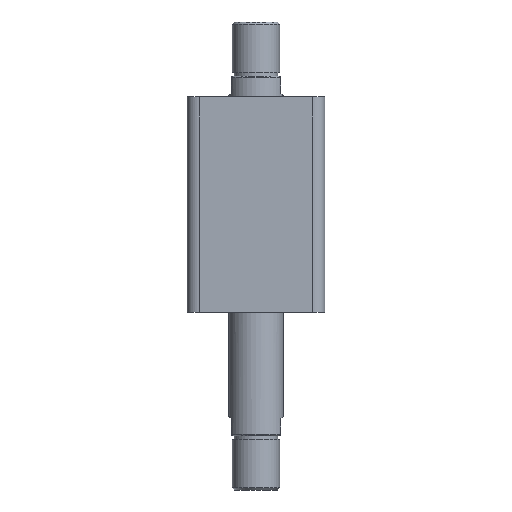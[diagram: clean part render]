
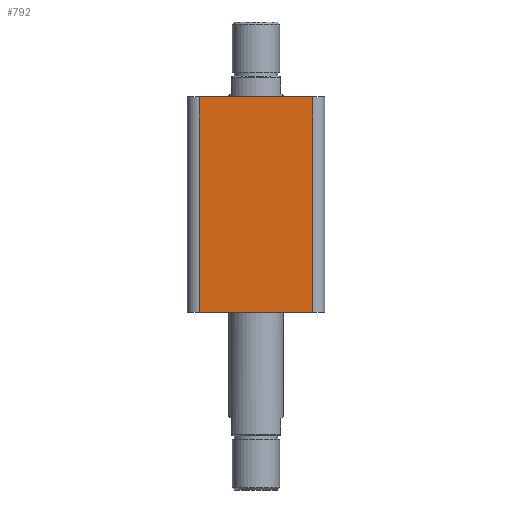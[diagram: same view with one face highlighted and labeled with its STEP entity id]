
A CAD part, front view. The second image highlights one B-rep face of the part: STEP entity #792.
In plain terms, the highlighted planar face has unit normal (0, -1, 0).
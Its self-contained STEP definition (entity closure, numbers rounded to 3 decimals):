
#68 = ORIENTED_EDGE ( 'NONE', *, *, #248, .T. ) ;
#69 = ORIENTED_EDGE ( 'NONE', *, *, #249, .F. ) ;
#248 = EDGE_CURVE ( 'NONE', #1068, #1072, #2921, .T. ) ;
#249 = EDGE_CURVE ( 'NONE', #1068, #1069, #2918, .T. ) ;
#250 = EDGE_CURVE ( 'NONE', #1070, #1069, #2925, .T. ) ;
#251 = EDGE_CURVE ( 'NONE', #1072, #1070, #2922, .T. ) ;
#694 = AXIS2_PLACEMENT_3D ( 'NONE', #1967, #1971, #1972 ) ;
#792 = ADVANCED_FACE ( 'NONE', ( #3364 ), #1969, .F. ) ;
#1068 = VERTEX_POINT ( 'NONE', #2710 ) ;
#1069 = VERTEX_POINT ( 'NONE', #2711 ) ;
#1070 = VERTEX_POINT ( 'NONE', #2712 ) ;
#1072 = VERTEX_POINT ( 'NONE', #2714 ) ;
#1270 = ORIENTED_EDGE ( 'NONE', *, *, #250, .T. ) ;
#1271 = ORIENTED_EDGE ( 'NONE', *, *, #251, .T. ) ;
#1321 = EDGE_LOOP ( 'NONE', ( #1271, #1270, #69, #68 ) ) ;
#1424 = CARTESIAN_POINT ( 'NONE',  ( -47., -57., 178. ) ) ;
#1433 = DIRECTION ( 'NONE',  ( 0., 0., -1. ) ) ;
#1434 = CARTESIAN_POINT ( 'NONE',  ( 47., -57., 178. ) ) ;
#1441 = DIRECTION ( 'NONE',  ( 1., 0., 0. ) ) ;
#1442 = CARTESIAN_POINT ( 'NONE',  ( -57., -57., 0. ) ) ;
#1455 = DIRECTION ( 'NONE',  ( 0., 0., 1. ) ) ;
#1489 = DIRECTION ( 'NONE',  ( 1., 0., 0. ) ) ;
#1500 = CARTESIAN_POINT ( 'NONE',  ( -57., -57., 178. ) ) ;
#1967 = CARTESIAN_POINT ( 'NONE',  ( -57., -57., 178. ) ) ;
#1969 = PLANE ( 'NONE',  #694 ) ;
#1971 = DIRECTION ( 'NONE',  ( 0., 1., 0. ) ) ;
#1972 = DIRECTION ( 'NONE',  ( 0., 0., 1. ) ) ;
#2710 = CARTESIAN_POINT ( 'NONE',  ( -47., -57., 178. ) ) ;
#2711 = CARTESIAN_POINT ( 'NONE',  ( 47., -57., 178. ) ) ;
#2712 = CARTESIAN_POINT ( 'NONE',  ( 47., -57., 0. ) ) ;
#2714 = CARTESIAN_POINT ( 'NONE',  ( -47., -57., 0. ) ) ;
#2918 = LINE ( 'NONE', #1500, #2919 ) ;
#2919 = VECTOR ( 'NONE', #1489, 1000. ) ;
#2921 = LINE ( 'NONE', #1424, #2926 ) ;
#2922 = LINE ( 'NONE', #1442, #2927 ) ;
#2923 = VECTOR ( 'NONE', #1455, 1000. ) ;
#2925 = LINE ( 'NONE', #1434, #2923 ) ;
#2926 = VECTOR ( 'NONE', #1433, 1000. ) ;
#2927 = VECTOR ( 'NONE', #1441, 1000. ) ;
#3364 = FACE_OUTER_BOUND ( 'NONE', #1321, .T. ) ;
